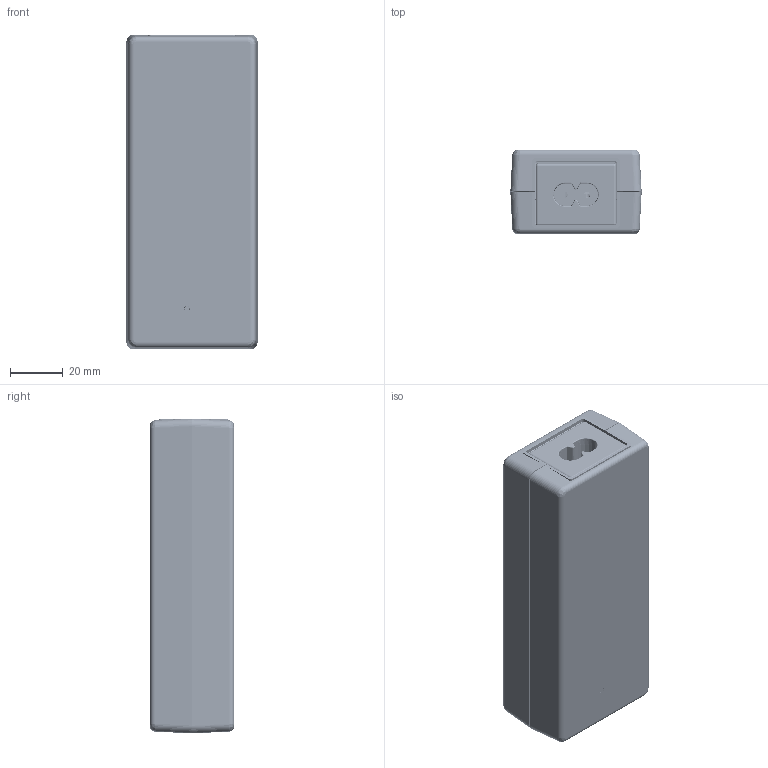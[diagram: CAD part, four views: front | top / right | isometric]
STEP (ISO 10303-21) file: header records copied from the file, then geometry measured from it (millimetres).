
FILE_DESCRIPTION((''),'2;1');
FILE_NAME('0_STD-NEW-60W_ASM_98_ASM','2024-04-02T08:56:44',('ERIC.CC.YEH'),(''),'CREO PARAMETRIC BY PTC INC, 2023294','CREO PARAMETRIC BY PTC INC, 2023294','');
FILE_SCHEMA(('CONFIG_CONTROL_DESIGN','GEOMETRIC_VALIDATION_PROPERTIES_MIM'));
Products named in the file (341): 330M0697PA_MEA045_CASE-COVER_14; 330M0698PA_MEA045_CASE-CHASSIS_; 325_LENS_1; 1_CASE-ASSY_MEA-045_ASM_58_ASM; BK105_5_1_1_2_1_1_2_1_1_1; ASM0016_ASM_4_ASM_1_1_ASM_1_A_3_ASM; ASM0002_ASM_1_ASM_1_ASM_2_1_ASM_ASM; C8-0319_27_8-19_8_ASM_ASM-26296_ASM; C8-0319_27_8-19_8_ASM_ASM-26329_ASM; C8-0429_25_6-17_9_ASM_ASM_ASM; C8-ROCK_ASM; BOARD_1; 334665780202_1; PIN_1; PIN_L_1; 200062620096-H115D3K_1; M3_L8_1; NUT-241_1; M3L8_ASM_1_ASM; T23PFK28_1; M3_L7_1; NUT-247_1; M3L7_ASM_1_ASM; 3346657802_1T2FK28-2BD3K_1_ASM; HS1_1_ASM; 3411010600_1; J9_1_ASM; 0855B40812_AP175_1_2_3; TUBE_1; 0855B40812_AP175_1_2_ASM; F1_1_ASM; 0313000032-BOBY_1_1_2_3_1; 0313000032-COATING_1_1_2_3_1; 0311072032_ASM_1_1_2_3_ASM_1_ASM; 0311072032_1_ASM; R111_1_ASM; 3179348004_1; CORE-SQ14-M2_1; OPEN_CASCADE_STEP_TRANSLA-29633; OPEN_CASCADE_STEP_TRANSLA-29814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
Assembly tree (412 placements, depth 8):
  0_STD-NEW-60W_ASM_98_ASM
    1_CASE-ASSY_MEA-045_ASM_58_ASM
      330M0697PA_MEA045_CASE-COVER_14
      330M0698PA_MEA045_CASE-CHASSIS_
      325_LENS_1
    C8-ROCK_ASM
      C8-0429_25_6-17_9_ASM_ASM_ASM
        C8-0319_27_8-19_8_ASM_ASM-26329_ASM
          C8-0319_27_8-19_8_ASM_ASM-26296_ASM
            ASM0002_ASM_1_ASM_1_ASM_2_1_ASM_ASM
              ASM0016_ASM_4_ASM_1_1_ASM_1_A_3_ASM
                BK105_5_1_1_2_1_1_2_1_1_1
    MEA-065A15B_A-AR1C1_ASM
      PCB_1_ASM
        BOARD_1
        HS1_1_ASM
          3346657802_1T2FK28-2BD3K_1_ASM
            334665780202_1
            PIN_1
            PIN_L_1
            200062620096-H115D3K_1
            M3L8_ASM_1_ASM
              M3_L8_1
              NUT-241_1
            T23PFK28_1
            M3L7_ASM_1_ASM
              M3_L7_1
              NUT-247_1
        J9_1_ASM
          3411010600_1
        F1_1_ASM
          0855B40812_AP175_1_2_ASM
            0855B40812_AP175_1_2_3
            TUBE_1
        R111_1_ASM
          0311072032_1_ASM
            0311072032_ASM_1_1_2_3_ASM_1_ASM
              0313000032-BOBY_1_1_2_3_1
              0313000032-COATING_1_1_2_3_1
        FL1_1_ASM
          28754415006-HFV-MP17457_1_ASM
            3179348004_1
            CORE-SQ14-M2_1
            COIL_SQ14_1_ASM
              OPEN_CASCADE_STEP_TRANSLA-29633
              OPEN_CASCADE_STEP_TRANSLA-29814
              OPEN_CASCADE_STEP_TRANSLA-29995
              OPEN_CASCADE_STEP_TRANSLA-30176
              OPEN_CASCADE_STEP_TRANSLA-30357
              OPEN_CASCADE_STEP_TRANSLA-30538
              OPEN_CASCADE_STEP_TRANSLA-30719
              OPEN_CASCADE_STEP_TRANSLA-30900
              OPEN_CASCADE_STEP_TRANSLA-31081
              OPEN_CASCADE_STEP_TRANSLA-31262
              OPEN_CASCADE_STEP_TRANSLA-31443
              OPEN_CASCADE_STEP_TRANSLA-31624
              OPEN_CASCADE_STEP_TRANSLA-31805
              OPEN_CASCADE_STEP_TRANSLA-31986
              OPEN_CASCADE_STEP_TRANSLA-32167
              OPEN_CASCADE_STEP_TRANSLA-32348
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Bounding box: 50 x 32 x 120 mm (x, y, z)
Volume: 92501.1 mm3; surface area: 148254.7 mm2
Topology: 311 solids, 311 shells, 7789 faces, 19352 edges, 12143 vertices
Faces by surface type: plane 3897, cylinder 2677, torus 677, bspline 195, cone 161, sphere 150, revolution 20, extrusion 12
Entity records: 246684 total; most frequent: CARTESIAN_POINT 51884, DIRECTION 32524, ORIENTED_EDGE 28918, EDGE_CURVE 14459, AXIS2_PLACEMENT_3D 11929, PRESENTATION_STYLE_ASSIGNMENT 10193, STYLED_ITEM 9954, CURVE_STYLE 9182
